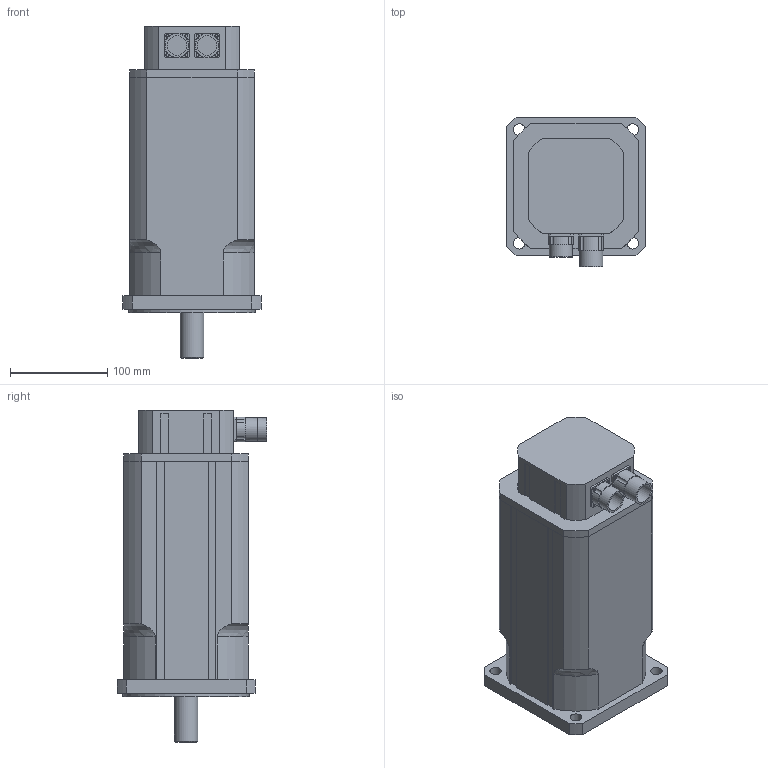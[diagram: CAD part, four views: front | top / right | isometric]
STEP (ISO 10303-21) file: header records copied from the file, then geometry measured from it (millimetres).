
FILE_DESCRIPTION(/* description */ ('Alibre Inc.'),/* implementation_level */ '2;1');
FILE_NAME(/* name */ 'export0',/* time_stamp */ '2011-07-28T13:37:05+02:00',/* author */ (''),/* organization */ (''),/* preprocessor_version */ 'ST-DEVELOPER v12',/* originating_system */ 'Alibre',/* authorisation */ '');
FILE_SCHEMA (('CONFIG_CONTROL_DESIGN'));
Length unit declared in the file: millimetre
Products named in the file (5): ID_1
Bounding box: 142 x 154 x 341 mm (x, y, z)
Volume: 4329890.5 mm3; surface area: 226030.2 mm2
Topology: 4 solids, 4 shells, 168 faces, 439 edges, 286 vertices
Faces by surface type: plane 93, cylinder 58, bspline 11, torus 4, cone 2
Full cylindrical faces by diameter (mm): 2.7 x8, 20 x2, 24 x3, 130 x1
Entity records: 5811 total; most frequent: CARTESIAN_POINT 1287, ORIENTED_EDGE 808, DIRECTION 797, EDGE_CURVE 404, AXIS2_PLACEMENT_3D 333, VERTEX_POINT 276, EDGE_LOOP 228, FACE_BOUND 228
